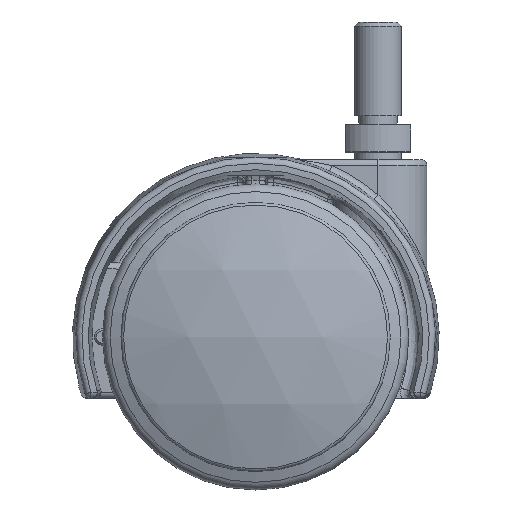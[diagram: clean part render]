
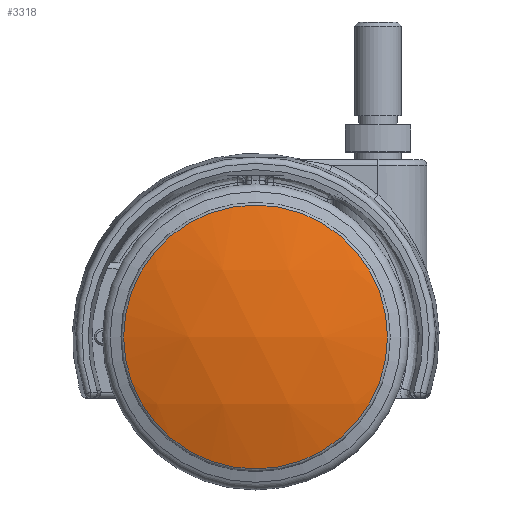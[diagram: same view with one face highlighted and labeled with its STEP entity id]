
A CAD part, front view. The second image highlights one B-rep face of the part: STEP entity #3318.
In plain terms, the highlighted spherical face has radius 96.5 mm.
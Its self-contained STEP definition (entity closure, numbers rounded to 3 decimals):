
#188=CARTESIAN_POINT('',(74.384,28.962,-46.569));
#189=VERTEX_POINT('',#188);
#190=CARTESIAN_POINT('',(74.384,28.962,-14.234));
#191=DIRECTION('',(0.0,1.0,0.0));
#192=DIRECTION('',(0.0,0.0,-1.0));
#193=AXIS2_PLACEMENT_3D('',#190,#191,#192);
#194=CIRCLE('',#193,32.335);
#195=EDGE_CURVE('',#189,#189,#194,.T.);
#3310=CARTESIAN_POINT('',(74.384,119.884,-14.234));
#3311=DIRECTION('',(0.0,0.0,1.0));
#3312=DIRECTION('',(0.0,1.0,0.0));
#3313=AXIS2_PLACEMENT_3D('',#3310,#3311,#3312);
#3314=SPHERICAL_SURFACE('',#3313,96.5);
#3315=ORIENTED_EDGE('',*,*,#195,.F.);
#3316=EDGE_LOOP('',(#3315));
#3317=FACE_OUTER_BOUND('',#3316,.T.);
#3318=ADVANCED_FACE('',(#3317),#3314,.T.);
